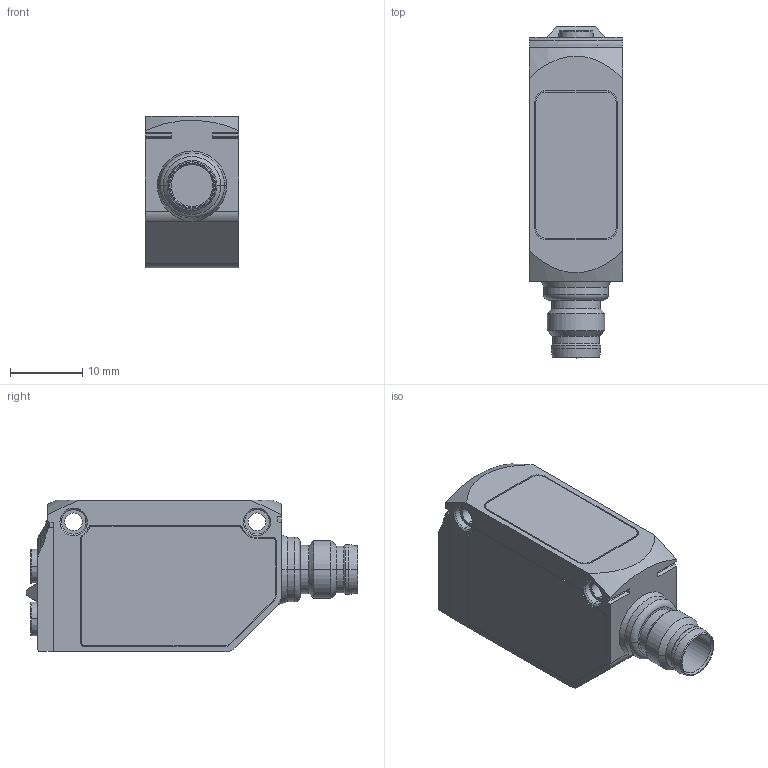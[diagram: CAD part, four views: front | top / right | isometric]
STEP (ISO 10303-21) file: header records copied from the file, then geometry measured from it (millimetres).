
FILE_DESCRIPTION (( 'STEP AP203' ), '1' );
FILE_NAME ('P_MZ_220_0001.STEP', '2026-01-13T11:07:05', ( '' ), ( '' ), 'SwSTEP 2.0', 'SolidWorks 2024', '' );
FILE_SCHEMA (( 'CONFIG_CONTROL_DESIGN' ));
Length unit declared in the file: millimetre
Products named in the file (3): P_MZ_220_0001_p1; P_MZ_220_0001_P2; P_MZ_220_0001
Assembly tree (2 placements, depth 2):
  P_MZ_220_0001
    P_MZ_220_0001_p1
    P_MZ_220_0001_P2
Bounding box: 13 x 46 x 21 mm (x, y, z)
Volume: 7959.6 mm3; surface area: 4344.2 mm2
Topology: 2 solids, 2 shells, 184 faces, 465 edges, 300 vertices
Faces by surface type: cylinder 70, plane 64, cone 26, torus 20, sphere 4
Entity records: 5999 total; most frequent: CARTESIAN_POINT 1150, DIRECTION 1010, ORIENTED_EDGE 930, EDGE_CURVE 465, AXIS2_PLACEMENT_3D 391, VERTEX_POINT 300, LINE 228, VECTOR 228
